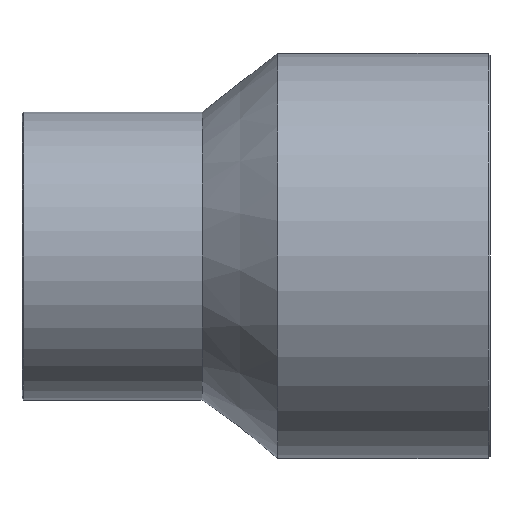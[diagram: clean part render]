
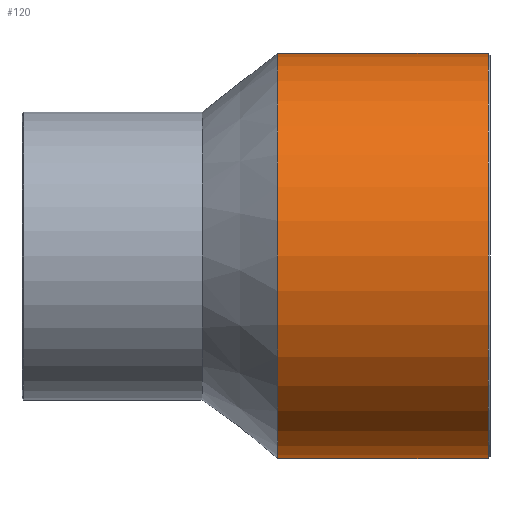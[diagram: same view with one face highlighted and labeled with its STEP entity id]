
A CAD part, front view. The second image highlights one B-rep face of the part: STEP entity #120.
In plain terms, the highlighted cylindrical face has radius 112.5 mm (diameter 225 mm), a full revolution.
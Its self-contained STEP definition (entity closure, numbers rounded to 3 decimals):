
#26=ORIENTED_EDGE('',*,*,#46,.T.);
#27=ORIENTED_EDGE('',*,*,#47,.F.);
#46=EDGE_CURVE('',#56,#56,#66,.T.);
#47=EDGE_CURVE('',#57,#57,#67,.T.);
#56=VERTEX_POINT('',#208);
#57=VERTEX_POINT('',#210);
#66=CIRCLE('',#144,112.5);
#67=CIRCLE('',#145,112.5);
#76=EDGE_LOOP('',(#26));
#77=EDGE_LOOP('',(#27));
#96=FACE_BOUND('',#76,.T.);
#97=FACE_BOUND('',#77,.T.);
#116=CYLINDRICAL_SURFACE('',#143,112.5);
#120=ADVANCED_FACE('',(#96,#97),#116,.T.);
#143=AXIS2_PLACEMENT_3D('',#206,#165,#166);
#144=AXIS2_PLACEMENT_3D('',#207,#167,#168);
#145=AXIS2_PLACEMENT_3D('',#209,#169,#170);
#165=DIRECTION('',(-1.,0.,0.));
#166=DIRECTION('',(0.,0.,1.));
#167=DIRECTION('',(-1.,0.,0.));
#168=DIRECTION('',(0.,0.,1.));
#169=DIRECTION('',(-1.,0.,0.));
#170=DIRECTION('',(0.,0.,1.));
#206=CARTESIAN_POINT('',(-60.,0.,0.));
#207=CARTESIAN_POINT('',(138.,0.,0.));
#208=CARTESIAN_POINT('',(138.,0.,112.5));
#209=CARTESIAN_POINT('',(21.,0.,0.));
#210=CARTESIAN_POINT('',(21.,0.,112.5));
